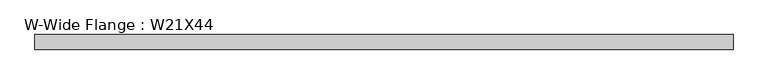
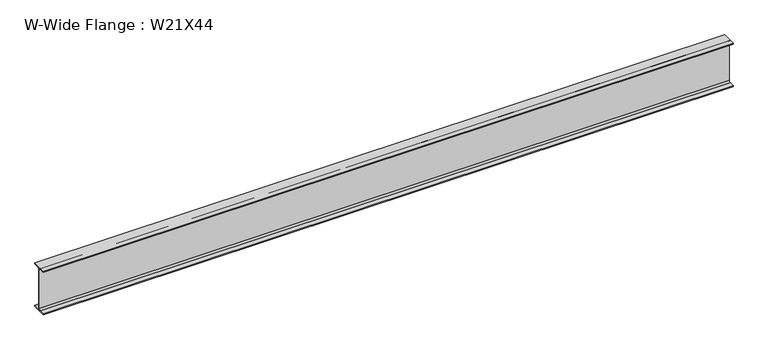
"""IFC4 building model written with IfcOpenShell, lengths in millimetres: beam geometry, W-Wide Flange : W21X44."""

from ifc_helpers import new_model, si_unit, point, frame, frame_2d, origin, place, context, project, spatial, polyline, circle_curve, trimmed, segment, composite_curve, outline, extrude, source, transform, mapped, element, save


def w_wide_flange_w21x44_bf9ef094(model_context):
    return source(origin(), model_context, "Body", "SweptSolid", [
        extrude(outline(composite_curve([segment(polyline([(82.55, -251.46), (82.55, -262.89), (-82.55, -262.89), (-82.55, -251.46), (-21.59, -251.46)]), True, "CONTINUOUS"), segment(trimmed(circle_curve(frame_2d((-21.59, -234.315)), 17.145), [point((-21.59, -251.46))], [point((-4.445, -234.315))], True, "CARTESIAN"), True, "CONTINUOUS"), segment(polyline([(-4.445, -234.315), (-4.445, 234.315)]), True, "CONTINUOUS"), segment(trimmed(circle_curve(frame_2d((-21.59, 234.315)), 17.145), [point((-4.445, 234.315))], [point((-21.59, 251.46))], True, "CARTESIAN"), True, "CONTINUOUS"), segment(polyline([(-21.59, 251.46), (-82.55, 251.46), (-82.55, 262.89), (82.55, 262.89), (82.55, 251.46), (21.59, 251.46)]), True, "CONTINUOUS"), segment(trimmed(circle_curve(frame_2d((21.59, 234.315)), 17.145), [point((21.59, 251.46))], [point((4.445, 234.315))], True, "CARTESIAN"), True, "CONTINUOUS"), segment(polyline([(4.445, 234.315), (4.445, -234.315)]), True, "CONTINUOUS"), segment(trimmed(circle_curve(frame_2d((21.59, -234.315)), 17.145), [point((4.445, -234.315))], [point((21.59, -251.46))], True, "CARTESIAN"), True, "CONTINUOUS"), segment(polyline([(21.59, -251.46), (82.55, -251.46)]), True, "CONTINUOUS")], self_intersect=False)), frame((-3909.0221042, 0.0, 0.0), z_axis=(1.0, 0.0, 0.0), x_axis=(0.0, 1.0, 0.0)), (0.0, 0.0, 1.0), 7878.6241146),
    ])


if __name__ == "__main__":
    model = new_model("IFC4")
    model_context = context("Model", 3, world=origin())
    ifc_project = project(units=[si_unit("LENGTHUNIT", "METRE", prefix="MILLI")], contexts=[model_context])
    site = spatial("IfcSite", under=ifc_project)
    building = spatial("IfcBuilding", under=site)
    placement = place(None, origin())
    w_wide_flange_w21x44_shape = w_wide_flange_w21x44_bf9ef094(model_context)
    element("IfcBeam", 1, ObjectType="W-Wide Flange : W21X44", at=placement, inside=building, context=model_context, shape_type="MappedRepresentation", body=[
        mapped(w_wide_flange_w21x44_shape, transform((0.0, 0.0, 0.0), x_axis=(1.0, 0.0, 0.0), y_axis=(0.0, 1.0, 0.0), z_axis=(0.0, 0.0, 1.0))),
    ])
    save(model, "model.ifc")
